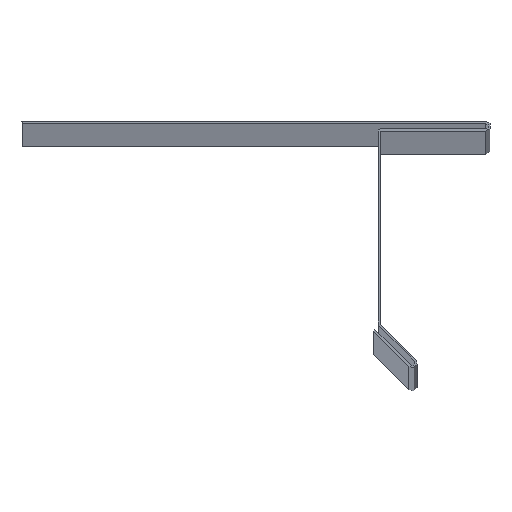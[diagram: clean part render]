
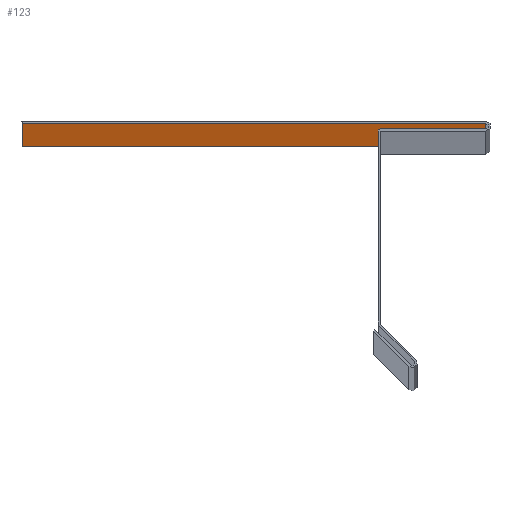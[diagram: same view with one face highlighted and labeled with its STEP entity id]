
A CAD part, top view. The second image highlights one B-rep face of the part: STEP entity #123.
In plain terms, the highlighted planar face has unit normal (0, -1, 0).
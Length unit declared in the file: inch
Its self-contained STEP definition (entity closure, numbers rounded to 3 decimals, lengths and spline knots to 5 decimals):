
#1 = DIRECTION ( 'NONE',  ( 0., 0., -1. ) ) ;
#31 = EDGE_CURVE ( 'NONE', #619, #185, #629, .T. ) ;
#92 = VERTEX_POINT ( 'NONE', #711 ) ;
#123 = ADVANCED_FACE ( 'NONE', ( #429 ), #345, .F. ) ;
#154 = VERTEX_POINT ( 'NONE', #763 ) ;
#185 = VERTEX_POINT ( 'NONE', #644 ) ;
#201 = DIRECTION ( 'NONE',  ( 0., 0., -1. ) ) ;
#206 = ORIENTED_EDGE ( 'NONE', *, *, #540, .F. ) ;
#211 = DIRECTION ( 'NONE',  ( -1., 0., 0. ) ) ;
#264 = ORIENTED_EDGE ( 'NONE', *, *, #663, .F. ) ;
#270 = VECTOR ( 'NONE', #311, 39.37008 ) ;
#281 = ORIENTED_EDGE ( 'NONE', *, *, #300, .T. ) ;
#286 = CARTESIAN_POINT ( 'NONE',  ( -3.22966, 0.22144, 0. ) ) ;
#300 = EDGE_CURVE ( 'NONE', #154, #619, #546, .T. ) ;
#303 = VECTOR ( 'NONE', #1, 39.37008 ) ;
#307 = AXIS2_PLACEMENT_3D ( 'NONE', #708, #646, #211 ) ;
#311 = DIRECTION ( 'NONE',  ( 1., 0., 0. ) ) ;
#334 = LINE ( 'NONE', #554, #270 ) ;
#345 = PLANE ( 'NONE',  #307 ) ;
#357 = CARTESIAN_POINT ( 'NONE',  ( 0.97534, 0.22144, 120. ) ) ;
#393 = VECTOR ( 'NONE', #415, 39.37008 ) ;
#415 = DIRECTION ( 'NONE',  ( 1., 0., 0. ) ) ;
#429 = FACE_OUTER_BOUND ( 'NONE', #700, .T. ) ;
#447 = CARTESIAN_POINT ( 'NONE',  ( -3.22966, 0.22144, 0. ) ) ;
#540 = EDGE_CURVE ( 'NONE', #92, #185, #543, .T. ) ;
#543 = LINE ( 'NONE', #357, #303 ) ;
#546 = LINE ( 'NONE', #698, #757 ) ;
#554 = CARTESIAN_POINT ( 'NONE',  ( -3.22966, 0.22144, 120. ) ) ;
#587 = ORIENTED_EDGE ( 'NONE', *, *, #31, .T. ) ;
#619 = VERTEX_POINT ( 'NONE', #447 ) ;
#629 = LINE ( 'NONE', #286, #393 ) ;
#644 = CARTESIAN_POINT ( 'NONE',  ( 0.97534, 0.22144, 0. ) ) ;
#646 = DIRECTION ( 'NONE',  ( 0., 1., 0. ) ) ;
#663 = EDGE_CURVE ( 'NONE', #154, #92, #334, .T. ) ;
#698 = CARTESIAN_POINT ( 'NONE',  ( -3.22966, 0.22144, 120. ) ) ;
#700 = EDGE_LOOP ( 'NONE', ( #587, #206, #264, #281 ) ) ;
#708 = CARTESIAN_POINT ( 'NONE',  ( -3.22966, 0.22144, 120. ) ) ;
#711 = CARTESIAN_POINT ( 'NONE',  ( 0.97534, 0.22144, 120. ) ) ;
#757 = VECTOR ( 'NONE', #201, 39.37008 ) ;
#763 = CARTESIAN_POINT ( 'NONE',  ( -3.22966, 0.22144, 120. ) ) ;
